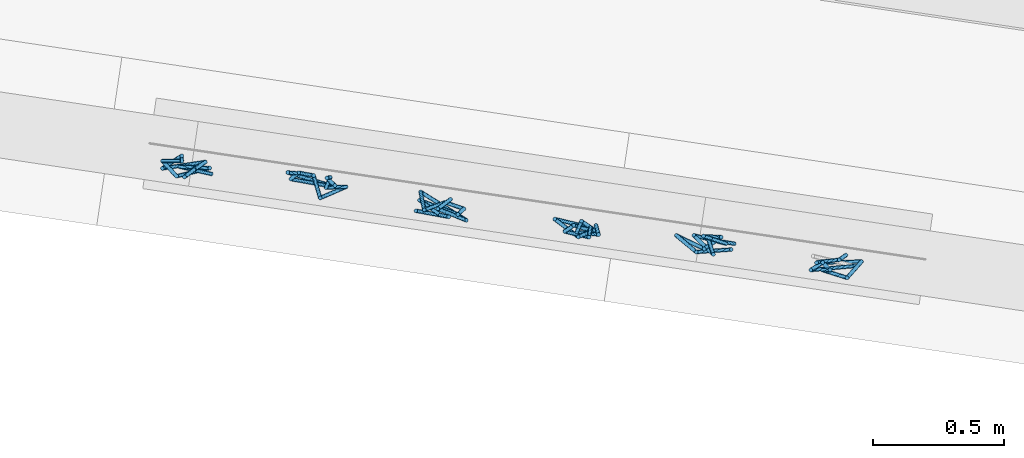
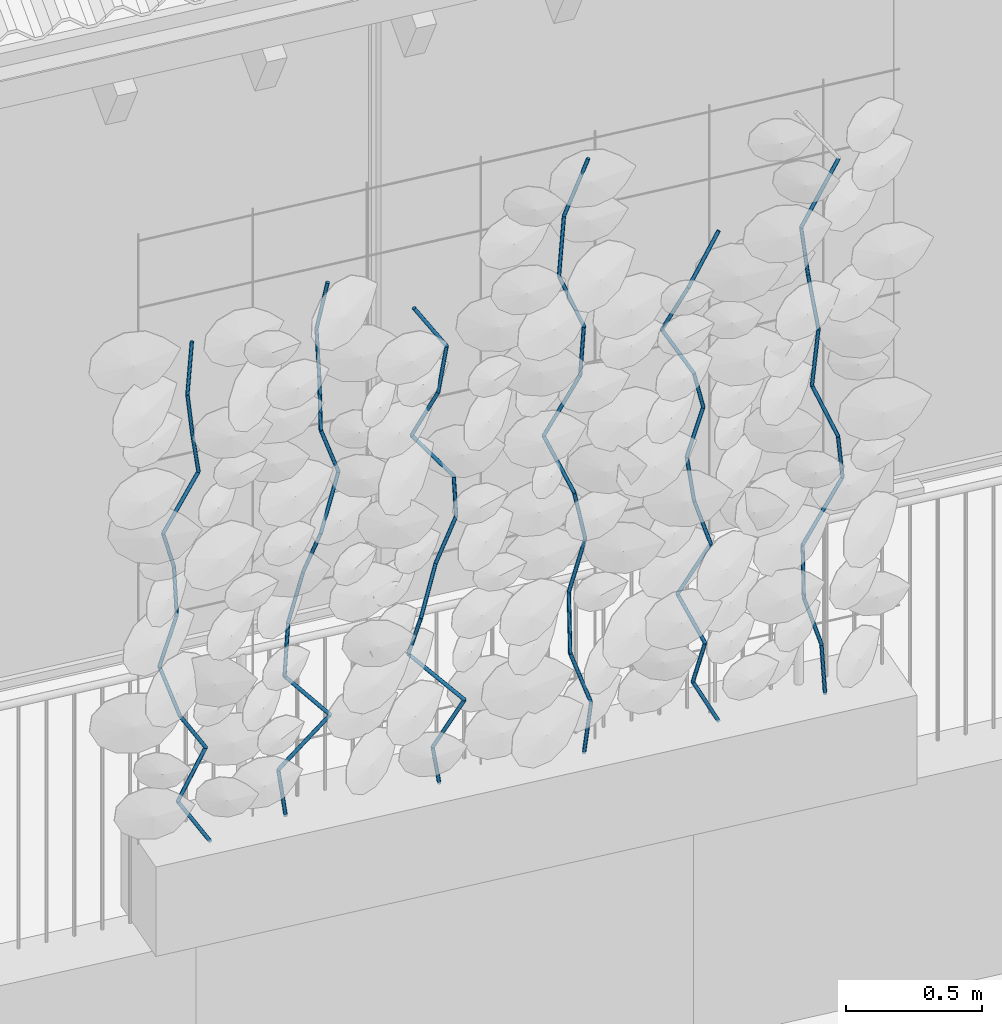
# One storey, part 106 of 128: 65 members, 1 element without a shape of its own.
"""IFC4 building model written with IfcOpenShell, lengths in metres."""

from ifc_helpers import new_model, si_unit, direction, frame, origin_with_axes, place, context, subcontext, project, spatial, circle, extrude, material, material_profile, profile_set, profile_usage, type_object, element, aggregate, save


model = new_model("IFC4")

# Units and contexts
model_context = context("Model", 3, precision=1e-05, world=origin_with_axes(), true_north=direction((0.0, 1.0)))
body_context = subcontext(model_context, "Body", "Model", "MODEL_VIEW")
ifc_project = project(units=[si_unit("VOLUMEUNIT", "CUBIC_METRE"), si_unit("LENGTHUNIT", "METRE"), si_unit("AREAUNIT", "SQUARE_METRE")], contexts=[model_context])

# Site, building, storey
site_placement = place(None, origin_with_axes())
site = spatial("IfcSite", under=ifc_project, at=site_placement, Name="Lares · Rua das Mercês · artigo 4771")
building_placement = place(site_placement, frame((15.0, 9.7, 13.9), z_axis=(0.0, 0.0, 1.0), x_axis=(0.989015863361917, -0.147809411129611, 0.0)))
building = spatial("IfcBuilding", under=site, at=building_placement, Name="Casa Sobreposta")
storey_placement = place(building_placement, origin_with_axes())
storey = spatial("IfcBuildingStorey", under=building, at=storey_placement, Name="00 · Habitação e estacionamento", Elevation=13.9)

# Assembly, members
assembly_placement = place(storey_placement, origin_with_axes())
assembly = element("IfcElementAssembly", 1, at=assembly_placement, inside=storey, Name="Fachada sul e pátio · estrutura e trepadeiras", ObjectType="LIVING_SHADE_TRELLIS", PredefinedType="USERDEFINED")
ifc_material = material(Name="Ramos de trepadeiras", Category="wood")
ifc_material_profile = material_profile(ifc_material, circle(Radius=0.0075))
ifc_profile_set = profile_set([ifc_material_profile], Name="D0.015")
ifc_profile_usage_1 = profile_usage(ifc_profile_set)
member_type = type_object("IfcMemberType", Name="D0.015 / vine_wood", PredefinedType="NOTDEFINED", material=ifc_profile_set)
member_1_placement = place(assembly_placement, frame((4.75122920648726, -1.69070800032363, 0.35), z_axis=(-0.518684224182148, 0.0390930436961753, 0.85407166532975), x_axis=(0.0751564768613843, 0.997171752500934, 0.0)))
member_1 = element("IfcMember", 2, at=member_1_placement, type_object=member_type, material=ifc_profile_usage_1, Name="Trepadeiras · ramo", context=body_context, shape_type="SweptSolid", body=[
    extrude(circle(Radius=0.0075), origin_with_axes(), (0.0, 0.0, 1.0), 0.239359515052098),
])
ifc_profile_usage_2 = profile_usage(ifc_profile_set)
member_2_placement = place(assembly_placement, frame((4.62707720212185, -1.68135070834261, 0.554430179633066), z_axis=(0.489334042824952, 0.051012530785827, 0.870603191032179), x_axis=(0.103686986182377, -0.994609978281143, 0.0)))
member_2 = element("IfcMember", 3, at=member_2_placement, type_object=member_type, material=ifc_profile_usage_2, Name="Trepadeiras · ramo", context=body_context, shape_type="SweptSolid", body=[
    extrude(circle(Radius=0.0075), origin_with_axes(), (0.0, 0.0, 1.0), 0.2348144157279),
])
ifc_profile_usage_3 = profile_usage(ifc_profile_set)
member_3_placement = place(assembly_placement, frame((4.74197988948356, -1.66937223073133, 0.758860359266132), z_axis=(-0.498709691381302, -0.204181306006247, 0.842376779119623), x_axis=(-0.378893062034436, 0.925440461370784, 0.0)))
member_3 = element("IfcMember", 4, at=member_3_placement, type_object=member_type, material=ifc_profile_usage_3, Name="Trepadeiras · ramo", context=body_context, shape_type="SweptSolid", body=[
    extrude(circle(Radius=0.0075), origin_with_axes(), (0.0, 0.0, 1.0), 0.242682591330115),
])
ifc_profile_usage_4 = profile_usage(ifc_profile_set)
member_4_placement = place(assembly_placement, frame((4.6209517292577, -1.71892347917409, 0.963290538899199), z_axis=(-0.281420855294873, 0.2249680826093, 0.932840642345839), x_axis=(0.624409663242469, 0.78109703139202, 0.0)))
member_4 = element("IfcMember", 5, at=member_4_placement, type_object=member_type, material=ifc_profile_usage_4, Name="Trepadeiras · ramo", context=body_context, shape_type="SweptSolid", body=[
    extrude(circle(Radius=0.0075), origin_with_axes(), (0.0, 0.0, 1.0), 0.219148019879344),
])
ifc_profile_usage_5 = profile_usage(ifc_profile_set)
member_5_placement = place(assembly_placement, frame((4.55927890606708, -1.66962216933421, 1.16772071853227), z_axis=(0.334839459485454, 0.0497730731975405, 0.940959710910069), x_axis=(0.147032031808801, -0.989131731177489, 0.0)))
member_5 = element("IfcMember", 6, at=member_5_placement, type_object=member_type, material=ifc_profile_usage_5, Name="Trepadeiras · ramo", context=body_context, shape_type="SweptSolid", body=[
    extrude(circle(Radius=0.0075), origin_with_axes(), (0.0, 0.0, 1.0), 0.217257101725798),
])
ifc_profile_usage_6 = profile_usage(ifc_profile_set)
member_6_placement = place(assembly_placement, frame((4.63202515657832, -1.65880861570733, 1.37215089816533), z_axis=(-0.0155370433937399, 0.0965979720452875, 0.995202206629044), x_axis=(0.987310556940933, 0.158801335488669, -2.20565392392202e-18)))
member_6 = element("IfcMember", 7, at=member_6_placement, type_object=member_type, material=ifc_profile_usage_6, Name="Trepadeiras · ramo", context=body_context, shape_type="SweptSolid", body=[
    extrude(circle(Radius=0.0075), origin_with_axes(), (0.0, 0.0, 1.0), 0.205415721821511),
])
ifc_profile_usage_7 = profile_usage(ifc_profile_set)
member_7_placement = place(assembly_placement, frame((4.62883360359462, -1.63896587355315, 1.5765810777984), z_axis=(-0.296042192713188, -0.262748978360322, 0.918325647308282), x_axis=(-0.663799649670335, 0.747910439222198, 0.0)))
member_7 = element("IfcMember", 8, at=member_7_placement, type_object=member_type, material=ifc_profile_usage_7, Name="Trepadeiras · ramo", context=body_context, shape_type="SweptSolid", body=[
    extrude(circle(Radius=0.0075), origin_with_axes(), (0.0, 0.0, 1.0), 0.222611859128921),
])
ifc_profile_usage_8 = profile_usage(ifc_profile_set)
member_8_placement = place(assembly_placement, frame((4.56293110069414, -1.69745691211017, 1.78101125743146), z_axis=(0.602593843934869, 0.184528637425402, 0.776421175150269), x_axis=(0.29280296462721, -0.956172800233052, 0.0)))
member_8 = element("IfcMember", 9, at=member_8_placement, type_object=member_type, material=ifc_profile_usage_8, Name="Trepadeiras · ramo", context=body_context, shape_type="SweptSolid", body=[
    extrude(circle(Radius=0.0075), origin_with_axes(), (0.0, 0.0, 1.0), 0.263298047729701),
])
ifc_profile_usage_9 = profile_usage(ifc_profile_set)
member_9_placement = place(assembly_placement, frame((4.72159288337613, -1.64887088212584, 1.98544143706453), z_axis=(-0.183474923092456, -0.172511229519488, 0.967768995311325), x_axis=(-0.685004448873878, 0.728538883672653, 0.0)))
member_9 = element("IfcMember", 10, at=member_9_placement, type_object=member_type, material=ifc_profile_usage_9, Name="Trepadeiras · ramo", context=body_context, shape_type="SweptSolid", body=[
    extrude(circle(Radius=0.0075), origin_with_axes(), (0.0, 0.0, 1.0), 0.211238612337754),
])
ifc_profile_usage_10 = profile_usage(ifc_profile_set)
member_10_placement = place(assembly_placement, frame((4.6828358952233, -1.68531191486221, 2.1898716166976), z_axis=(-0.151703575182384, -0.152460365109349, 0.976597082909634), x_axis=(-0.708863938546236, 0.705345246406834, 0.0)))
member_10 = element("IfcMember", 11, at=member_10_placement, type_object=member_type, material=ifc_profile_usage_10, Name="Trepadeiras · ramo", context=body_context, shape_type="SweptSolid", body=[
    extrude(circle(Radius=0.0075), origin_with_axes(), (0.0, 0.0, 1.0), 0.209329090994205),
])
ifc_profile_usage_11 = profile_usage(ifc_profile_set)
member_11_placement = place(assembly_placement, frame((4.6510799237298, -1.7172263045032, 2.39430179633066), z_axis=(0.152772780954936, 0.174728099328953, 0.972692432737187), x_axis=(0.75282070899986, -0.658225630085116, 0.0)))
member_11 = element("IfcMember", 12, at=member_11_placement, type_object=member_type, material=ifc_profile_usage_11, Name="Trepadeiras · ramo", context=body_context, shape_type="SweptSolid", body=[
    extrude(circle(Radius=0.0075), origin_with_axes(), (0.0, 0.0, 1.0), 0.21016939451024),
])
ifc_profile_usage_12 = profile_usage(ifc_profile_set)
member_12_placement = place(assembly_placement, frame((5.06868094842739, -1.64046507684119, 0.35), z_axis=(-0.137952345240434, -0.00819560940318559, 0.990404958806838), x_axis=(-0.0593044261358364, 0.998239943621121, 0.0)))
member_12 = element("IfcMember", 13, at=member_12_placement, type_object=member_type, material=ifc_profile_usage_12, Name="Trepadeiras · ramo", context=body_context, shape_type="SweptSolid", body=[
    extrude(circle(Radius=0.0075), origin_with_axes(), (0.0, 0.0, 1.0), 0.217030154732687),
])
ifc_profile_usage_13 = profile_usage(ifc_profile_set)
member_13_placement = place(assembly_placement, frame((5.03874112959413, -1.64224377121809, 0.564947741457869), z_axis=(0.665448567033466, -0.0975228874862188, 0.740045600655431), x_axis=(-0.145003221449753, -0.989431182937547, 0.0)))
member_13 = element("IfcMember", 14, at=member_13_placement, type_object=member_type, material=ifc_profile_usage_13, Name="Trepadeiras · ramo", context=body_context, shape_type="SweptSolid", body=[
    extrude(circle(Radius=0.0075), origin_with_axes(), (0.0, 0.0, 1.0), 0.290452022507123),
])
ifc_profile_usage_14 = profile_usage(ifc_profile_set)
member_14_placement = place(assembly_placement, frame((5.23202201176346, -1.67056949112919, 0.779895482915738), z_axis=(-0.636980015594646, 0.019434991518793, 0.770635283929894), x_axis=(0.030496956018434, 0.999534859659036, 0.0)))
member_14 = element("IfcMember", 15, at=member_14_placement, type_object=member_type, material=ifc_profile_usage_14, Name="Trepadeiras · ramo", context=body_context, shape_type="SweptSolid", body=[
    extrude(circle(Radius=0.0075), origin_with_axes(), (0.0, 0.0, 1.0), 0.278922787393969),
])
ifc_profile_usage_15 = profile_usage(ifc_profile_set)
member_15_placement = place(assembly_placement, frame((5.05435377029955, -1.66514862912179, 0.994843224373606), z_axis=(0.115761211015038, 0.129508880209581, 0.984797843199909), x_axis=(0.745570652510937, -0.66642659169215, 0.0)))
member_15 = element("IfcMember", 16, at=member_15_placement, type_object=member_type, material=ifc_profile_usage_15, Name="Trepadeiras · ramo", context=body_context, shape_type="SweptSolid", body=[
    extrude(circle(Radius=0.0075), origin_with_axes(), (0.0, 0.0, 1.0), 0.218265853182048),
])
ifc_profile_usage_16 = profile_usage(ifc_profile_set)
member_16_placement = place(assembly_placement, frame((5.07962048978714, -1.6368812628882, 1.20979096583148), z_axis=(0.263759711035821, -0.0100204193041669, 0.964536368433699), x_axis=(-0.037963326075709, -0.9992791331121, 1.58477361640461e-18)))
member_16 = element("IfcMember", 17, at=member_16_placement, type_object=member_type, material=ifc_profile_usage_16, Name="Trepadeiras · ramo", context=body_context, shape_type="SweptSolid", body=[
    extrude(circle(Radius=0.0075), origin_with_axes(), (0.0, 0.0, 1.0), 0.22285084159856),
])
ifc_profile_usage_17 = profile_usage(ifc_profile_set)
member_17_placement = place(assembly_placement, frame((5.13839956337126, -1.6391143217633, 1.42473870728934), z_axis=(0.161438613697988, -0.347744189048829, 0.923586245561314), x_axis=(-0.90702296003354, -0.42108116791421, 0.0)))
member_17 = element("IfcMember", 18, at=member_17_placement, type_object=member_type, material=ifc_profile_usage_17, Name="Trepadeiras · ramo", context=body_context, shape_type="SweptSolid", body=[
    extrude(circle(Radius=0.0075), origin_with_axes(), (0.0, 0.0, 1.0), 0.232731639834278),
])
ifc_profile_usage_18 = profile_usage(ifc_profile_set)
member_18_placement = place(assembly_placement, frame((5.17597143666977, -1.72004539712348, 1.63968644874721), z_axis=(0.381320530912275, 0.236593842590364, 0.893654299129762), x_axis=(0.527221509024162, -0.849727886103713, 0.0)))
member_18 = element("IfcMember", 19, at=member_18_placement, type_object=member_type, material=ifc_profile_usage_18, Name="Trepadeiras · ramo", context=body_context, shape_type="SweptSolid", body=[
    extrude(circle(Radius=0.0075), origin_with_axes(), (0.0, 0.0, 1.0), 0.240526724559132),
])
ifc_profile_usage_19 = profile_usage(ifc_profile_set)
member_19_placement = place(assembly_placement, frame((5.26768921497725, -1.66313825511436, 1.85463419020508), z_axis=(-0.330503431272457, -0.0630043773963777, 0.941699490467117), x_axis=(-0.187259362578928, 0.98231050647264, 0.0)))
member_19 = element("IfcMember", 20, at=member_19_placement, type_object=member_type, material=ifc_profile_usage_19, Name="Trepadeiras · ramo", context=body_context, shape_type="SweptSolid", body=[
    extrude(circle(Radius=0.0075), origin_with_axes(), (0.0, 0.0, 1.0), 0.2282551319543),
])
ifc_profile_usage_20 = profile_usage(ifc_profile_set)
member_20_placement = place(assembly_placement, frame((5.1922501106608, -1.67751932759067, 2.06958193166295), z_axis=(0.046925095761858, 0.189441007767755, 0.980770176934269), x_axis=(0.970664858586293, -0.2404365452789, 0.0)))
member_20 = element("IfcMember", 21, at=member_20_placement, type_object=member_type, material=ifc_profile_usage_20, Name="Trepadeiras · ramo", context=body_context, shape_type="SweptSolid", body=[
    extrude(circle(Radius=0.0075), origin_with_axes(), (0.0, 0.0, 1.0), 0.219162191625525),
])
ifc_profile_usage_21 = profile_usage(ifc_profile_set)
member_21_placement = place(assembly_placement, frame((5.20253431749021, -1.63600102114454, 2.28452967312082), z_axis=(-0.0592955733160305, -0.0221108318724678, 0.997995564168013), x_axis=(-0.349391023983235, 0.936977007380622, 0.0)))
member_21 = element("IfcMember", 22, at=member_21_placement, type_object=member_type, material=ifc_profile_usage_21, Name="Trepadeiras · ramo", context=body_context, shape_type="SweptSolid", body=[
    extrude(circle(Radius=0.0075), origin_with_axes(), (0.0, 0.0, 1.0), 0.215379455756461),
])
ifc_profile_usage_22 = profile_usage(ifc_profile_set)
member_22_placement = place(assembly_placement, frame((5.18976326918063, -1.64076324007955, 2.49947741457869), z_axis=(0.15933076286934, -0.109261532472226, 0.981160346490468), x_axis=(-0.565550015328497, -0.824713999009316, 0.0)))
member_22 = element("IfcMember", 23, at=member_22_placement, type_object=member_type, material=ifc_profile_usage_22, Name="Trepadeiras · ramo", context=body_context, shape_type="SweptSolid", body=[
    extrude(circle(Radius=0.0075), origin_with_axes(), (0.0, 0.0, 1.0), 0.219075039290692),
])
ifc_profile_usage_23 = profile_usage(ifc_profile_set)
member_23_placement = place(assembly_placement, frame((5.66950418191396, -1.65129466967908, 0.35), z_axis=(-0.205530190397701, -0.206844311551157, 0.956542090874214), x_axis=(-0.709356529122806, 0.704849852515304, 0.0)))
member_23 = element("IfcMember", 24, at=member_23_placement, type_object=member_type, material=ifc_profile_usage_23, Name="Trepadeiras · ramo", context=body_context, shape_type="SweptSolid", body=[
    extrude(circle(Radius=0.0075), origin_with_axes(), (0.0, 0.0, 1.0), 0.209011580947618),
])
ifc_profile_usage_24 = profile_usage(ifc_profile_set)
member_24_placement = place(assembly_placement, frame((5.62654599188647, -1.69452752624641, 0.54992837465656), z_axis=(0.494911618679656, -0.11866439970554, 0.860802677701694), x_axis=(-0.233160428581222, -0.972438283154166, 0.0)))
member_24 = element("IfcMember", 25, at=member_24_placement, type_object=member_type, material=ifc_profile_usage_24, Name="Trepadeiras · ramo", context=body_context, shape_type="SweptSolid", body=[
    extrude(circle(Radius=0.0075), origin_with_axes(), (0.0, 0.0, 1.0), 0.232258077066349),
])
ifc_profile_usage_25 = profile_usage(ifc_profile_set)
member_25_placement = place(assembly_placement, frame((5.7414932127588, -1.72208829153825, 0.749856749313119), z_axis=(-0.659269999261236, 0.284205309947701, 0.696125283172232), x_axis=(0.395873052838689, 0.91830524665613, 0.0)))
member_25 = element("IfcMember", 26, at=member_25_placement, type_object=member_type, material=ifc_profile_usage_25, Name="Trepadeiras · ramo", context=body_context, shape_type="SweptSolid", body=[
    extrude(circle(Radius=0.0075), origin_with_axes(), (0.0, 0.0, 1.0), 0.287201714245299),
])
ifc_profile_usage_26 = profile_usage(ifc_profile_set)
member_26_placement = place(assembly_placement, frame((5.55214973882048, -1.64046403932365, 0.949785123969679), z_axis=(0.112788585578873, -0.311886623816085, 0.943401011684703), x_axis=(-0.940396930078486, -0.340078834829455, -1.97379042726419e-17)))
member_26 = element("IfcMember", 27, at=member_26_placement, type_object=member_type, material=ifc_profile_usage_26, Name="Trepadeiras · ramo", context=body_context, shape_type="SweptSolid", body=[
    extrude(circle(Radius=0.0075), origin_with_axes(), (0.0, 0.0, 1.0), 0.211923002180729),
])
ifc_profile_usage_27 = profile_usage(ifc_profile_set)
member_27_placement = place(assembly_placement, frame((5.57605223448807, -1.70655998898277, 1.14971349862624), z_axis=(0.341737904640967, 0.186741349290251, 0.921055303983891), x_axis=(0.479522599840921, -0.877529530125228, 0.0)))
member_27 = element("IfcMember", 28, at=member_27_placement, type_object=member_type, material=ifc_profile_usage_27, Name="Trepadeiras · ramo", context=body_context, shape_type="SweptSolid", body=[
    extrude(circle(Radius=0.0075), origin_with_axes(), (0.0, 0.0, 1.0), 0.217064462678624),
])
ifc_profile_usage_28 = profile_usage(ifc_profile_set)
member_28_placement = place(assembly_placement, frame((5.65023138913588, -1.6660250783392, 1.3496418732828), z_axis=(0.350783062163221, -0.0651607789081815, 0.934186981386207), x_axis=(-0.182633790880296, -0.983181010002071, 0.0)))
member_28 = element("IfcMember", 29, at=member_28_placement, type_object=member_type, material=ifc_profile_usage_28, Name="Trepadeiras · ramo", context=body_context, shape_type="SweptSolid", body=[
    extrude(circle(Radius=0.0075), origin_with_axes(), (0.0, 0.0, 1.0), 0.214013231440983),
])
ifc_profile_usage_29 = profile_usage(ifc_profile_set)
member_29_placement = place(assembly_placement, frame((5.72530360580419, -1.67997034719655, 1.54957024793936), z_axis=(-0.0969763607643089, -0.121686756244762, 0.987819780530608), x_axis=(-0.782036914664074, 0.623232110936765, 0.0)))
member_29 = element("IfcMember", 30, at=member_29_placement, type_object=member_type, material=ifc_profile_usage_29, Name="Trepadeiras · ramo", context=body_context, shape_type="SweptSolid", body=[
    extrude(circle(Radius=0.0075), origin_with_axes(), (0.0, 0.0, 1.0), 0.202393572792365),
])
ifc_profile_usage_30 = profile_usage(ifc_profile_set)
member_30_placement = place(assembly_placement, frame((5.7056762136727, -1.70459896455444, 1.74949862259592), z_axis=(-0.603457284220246, 0.128578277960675, 0.786960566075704), x_axis=(0.208391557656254, 0.978045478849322, 0.0)))
member_30 = element("IfcMember", 31, at=member_30_placement, type_object=member_type, material=ifc_profile_usage_30, Name="Trepadeiras · ramo", context=body_context, shape_type="SweptSolid", body=[
    extrude(circle(Radius=0.0075), origin_with_axes(), (0.0, 0.0, 1.0), 0.254051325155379),
])
ifc_profile_usage_31 = profile_usage(ifc_profile_set)
member_31_placement = place(assembly_placement, frame((5.55236709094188, -1.67193348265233, 1.94942699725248), z_axis=(0.393051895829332, -0.199468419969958, 0.897620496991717), x_axis=(-0.452546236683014, -0.89174093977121, 0.0)))
member_31 = element("IfcMember", 32, at=member_31_placement, type_object=member_type, material=ifc_profile_usage_31, Name="Trepadeiras · ramo", context=body_context, shape_type="SweptSolid", body=[
    extrude(circle(Radius=0.0075), origin_with_axes(), (0.0, 0.0, 1.0), 0.22273151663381),
])
ifc_profile_usage_32 = profile_usage(ifc_profile_set)
member_32_placement = place(assembly_placement, frame((5.63991213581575, -1.71636138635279, 2.14935537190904), z_axis=(0.159426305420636, -0.0119359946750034, 0.987137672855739), x_axis=(-0.0746594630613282, -0.997209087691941, 0.0)))
member_32 = element("IfcMember", 33, at=member_32_placement, type_object=member_type, material=ifc_profile_usage_32, Name="Trepadeiras · ramo", context=body_context, shape_type="SweptSolid", body=[
    extrude(circle(Radius=0.0075), origin_with_axes(), (0.0, 0.0, 1.0), 0.202533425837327),
])
ifc_profile_usage_33 = profile_usage(ifc_profile_set)
member_33_placement = place(assembly_placement, frame((5.67220129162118, -1.7187788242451, 2.3492837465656), z_axis=(-0.537931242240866, 0.0189032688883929, 0.842776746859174), x_axis=(0.0351190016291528, 0.999383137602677, 0.0)))
member_33 = element("IfcMember", 34, at=member_33_placement, type_object=member_type, material=ifc_profile_usage_33, Name="Trepadeiras · ramo", context=body_context, shape_type="SweptSolid", body=[
    extrude(circle(Radius=0.0075), origin_with_axes(), (0.0, 0.0, 1.0), 0.237225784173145),
])
ifc_profile_usage_34 = profile_usage(ifc_profile_set)
member_34_placement = place(assembly_placement, frame((6.23384789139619, -1.66762222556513, 0.35), z_axis=(0.0596742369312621, -0.136129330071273, 0.988892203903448), x_axis=(-0.915866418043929, -0.401483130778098, 0.0)))
member_34 = element("IfcMember", 35, at=member_34_placement, type_object=member_type, material=ifc_profile_usage_34, Name="Trepadeiras · ramo", context=body_context, shape_type="SweptSolid", body=[
    extrude(circle(Radius=0.0075), origin_with_axes(), (0.0, 0.0, 1.0), 0.246138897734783),
])
ifc_profile_usage_35 = profile_usage(ifc_profile_set)
member_35_placement = place(assembly_placement, frame((6.24853604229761, -1.70112894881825, 0.593404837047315), z_axis=(-0.322780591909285, -0.00849818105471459, 0.946435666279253), x_axis=(-0.0263189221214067, 0.999653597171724, 0.0)))
member_35 = element("IfcMember", 36, at=member_35_placement, type_object=member_type, material=ifc_profile_usage_35, Name="Trepadeiras · ramo", context=body_context, shape_type="SweptSolid", body=[
    extrude(circle(Radius=0.0075), origin_with_axes(), (0.0, 0.0, 1.0), 0.257180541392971),
])
ifc_profile_usage_36 = profile_usage(ifc_profile_set)
member_36_placement = place(assembly_placement, frame((6.16552315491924, -1.70331451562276, 0.836809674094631), z_axis=(0.0452625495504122, 0.173128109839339, 0.983858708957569), x_axis=(0.967482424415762, -0.252938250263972, 0.0)))
member_36 = element("IfcMember", 37, at=member_36_placement, type_object=member_type, material=ifc_profile_usage_36, Name="Trepadeiras · ramo", context=body_context, shape_type="SweptSolid", body=[
    extrude(circle(Radius=0.0075), origin_with_axes(), (0.0, 0.0, 1.0), 0.247398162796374),
])
ifc_profile_usage_37 = profile_usage(ifc_profile_set)
member_37_placement = place(assembly_placement, frame((6.17672102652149, -1.6604829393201, 1.08021451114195), z_axis=(0.217194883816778, -0.103894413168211, 0.970583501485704), x_axis=(-0.431518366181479, -0.90210415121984, 0.0)))
member_37 = element("IfcMember", 38, at=member_37_placement, type_object=member_type, material=ifc_profile_usage_37, Name="Trepadeiras · ramo", context=body_context, shape_type="SweptSolid", body=[
    extrude(circle(Radius=0.0075), origin_with_axes(), (0.0, 0.0, 1.0), 0.250781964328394),
])
ifc_profile_usage_38 = profile_usage(ifc_profile_set)
member_38_placement = place(assembly_placement, frame((6.23118958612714, -1.68653778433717, 1.32361934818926), z_axis=(-0.227746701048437, -0.137682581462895, 0.963937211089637), x_axis=(-0.517351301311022, 0.855773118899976, 0.0)))
member_38 = element("IfcMember", 39, at=member_38_placement, type_object=member_type, material=ifc_profile_usage_38, Name="Trepadeiras · ramo", context=body_context, shape_type="SweptSolid", body=[
    extrude(circle(Radius=0.0075), origin_with_axes(), (0.0, 0.0, 1.0), 0.252511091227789),
])
ifc_profile_usage_39 = profile_usage(ifc_profile_set)
member_39_placement = place(assembly_placement, frame((6.17368101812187, -1.72130416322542, 1.56702418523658), z_axis=(-0.369595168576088, 0.20129408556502, 0.907127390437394), x_axis=(0.478296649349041, 0.878198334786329, 0.0)))
member_39 = element("IfcMember", 40, at=member_39_placement, type_object=member_type, material=ifc_profile_usage_39, Name="Trepadeiras · ramo", context=body_context, shape_type="SweptSolid", body=[
    extrude(circle(Radius=0.0075), origin_with_axes(), (0.0, 0.0, 1.0), 0.268324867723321),
])
ifc_profile_usage_40 = profile_usage(ifc_profile_set)
member_40_placement = place(assembly_placement, frame((6.07450944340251, -1.6672919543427, 1.81042902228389), z_axis=(0.49705681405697, -0.0433913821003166, 0.866632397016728), x_axis=(-0.0869658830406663, -0.996211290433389, 0.0)))
member_40 = element("IfcMember", 41, at=member_40_placement, type_object=member_type, material=ifc_profile_usage_40, Name="Trepadeiras · ramo", context=body_context, shape_type="SweptSolid", body=[
    extrude(circle(Radius=0.0075), origin_with_axes(), (0.0, 0.0, 1.0), 0.280862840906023),
])
ifc_profile_usage_41 = profile_usage(ifc_profile_set)
member_41_placement = place(assembly_placement, frame((6.21411423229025, -1.67947898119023, 2.05383385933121), z_axis=(-0.000663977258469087, -0.150236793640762, 0.988649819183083), x_axis=(-0.999990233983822, 0.0044194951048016, 0.0)))
member_41 = element("IfcMember", 42, at=member_41_placement, type_object=member_type, material=ifc_profile_usage_41, Name="Trepadeiras · ramo", context=body_context, shape_type="SweptSolid", body=[
    extrude(circle(Radius=0.0075), origin_with_axes(), (0.0, 0.0, 1.0), 0.246199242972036),
])
ifc_profile_usage_42 = profile_usage(ifc_profile_set)
member_42_placement = place(assembly_placement, frame((6.21395076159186, -1.71646716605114, 2.29723869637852), z_axis=(-0.363204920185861, 0.0303616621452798, 0.931214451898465), x_axis=(0.0833032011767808, 0.996524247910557, 0.0)))
member_42 = element("IfcMember", 43, at=member_42_placement, type_object=member_type, material=ifc_profile_usage_42, Name="Trepadeiras · ramo", context=body_context, shape_type="SweptSolid", body=[
    extrude(circle(Radius=0.0075), origin_with_axes(), (0.0, 0.0, 1.0), 0.261384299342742),
])
ifc_profile_usage_43 = profile_usage(ifc_profile_set)
member_43_placement = place(assembly_placement, frame((6.11901469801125, -1.70853110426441, 2.54064353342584), z_axis=(0.124656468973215, 0.11394797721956, 0.985635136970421), x_axis=(0.674692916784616, -0.738098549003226, 0.0)))
member_43 = element("IfcMember", 44, at=member_43_placement, type_object=member_type, material=ifc_profile_usage_43, Name="Trepadeiras · ramo", context=body_context, shape_type="SweptSolid", body=[
    extrude(circle(Radius=0.0075), origin_with_axes(), (0.0, 0.0, 1.0), 0.246952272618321),
])
ifc_profile_usage_44 = profile_usage(ifc_profile_set)
member_44_placement = place(assembly_placement, frame((6.14979889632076, -1.68039139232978, 2.78404837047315), z_axis=(0.348550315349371, -0.0526069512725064, 0.935812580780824), x_axis=(-0.149240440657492, -0.988800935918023, 0.0)))
member_44 = element("IfcMember", 45, at=member_44_placement, type_object=member_type, material=ifc_profile_usage_44, Name="Trepadeiras · ramo", context=body_context, shape_type="SweptSolid", body=[
    extrude(circle(Radius=0.0075), origin_with_axes(), (0.0, 0.0, 1.0), 0.26009998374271),
])
ifc_profile_usage_45 = profile_usage(ifc_profile_set)
member_45_placement = place(assembly_placement, frame((6.76755332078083, -1.65888668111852, 0.35), z_axis=(-0.448501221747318, 0.00414639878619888, 0.893772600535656), x_axis=(0.00924461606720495, 0.999957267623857, 0.0)))
member_45 = element("IfcMember", 46, at=member_45_placement, type_object=member_type, material=ifc_profile_usage_45, Name="Trepadeiras · ramo", context=body_context, shape_type="SweptSolid", body=[
    extrude(circle(Radius=0.0075), origin_with_axes(), (0.0, 0.0, 1.0), 0.225170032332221),
])
ifc_profile_usage_46 = profile_usage(ifc_profile_set)
member_46_placement = place(assembly_placement, frame((6.66656428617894, -1.65795303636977, 0.551250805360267), z_axis=(0.130163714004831, -0.25384617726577, 0.958446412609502), x_axis=(-0.889837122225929, -0.456278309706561, 0.0)))
member_46 = element("IfcMember", 47, at=member_46_placement, type_object=member_type, material=ifc_profile_usage_46, Name="Trepadeiras · ramo", context=body_context, shape_type="SweptSolid", body=[
    extrude(circle(Radius=0.0075), origin_with_axes(), (0.0, 0.0, 1.0), 0.209976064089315),
])
ifc_profile_usage_47 = profile_usage(ifc_profile_set)
member_47_placement = place(assembly_placement, frame((6.69389555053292, -1.71125465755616, 0.752501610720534), z_axis=(-0.374057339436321, 0.269779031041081, 0.887299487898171), x_axis=(0.58495820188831, 0.811063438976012, 0.0)))
member_47 = element("IfcMember", 48, at=member_47_placement, type_object=member_type, material=ifc_profile_usage_47, Name="Trepadeiras · ramo", context=body_context, shape_type="SweptSolid", body=[
    extrude(circle(Radius=0.0075), origin_with_axes(), (0.0, 0.0, 1.0), 0.226812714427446),
])
ifc_profile_usage_48 = profile_usage(ifc_profile_set)
member_48_placement = place(assembly_placement, frame((6.60905459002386, -1.65006534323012, 0.9537524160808), z_axis=(0.53027502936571, -0.0556057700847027, 0.846000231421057), x_axis=(-0.104290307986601, -0.994546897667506, 0.0)))
member_48 = element("IfcMember", 49, at=member_48_placement, type_object=member_type, material=ifc_profile_usage_48, Name="Trepadeiras · ramo", context=body_context, shape_type="SweptSolid", body=[
    extrude(circle(Radius=0.0075), origin_with_axes(), (0.0, 0.0, 1.0), 0.237885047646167),
])
ifc_profile_usage_49 = profile_usage(ifc_profile_set)
member_49_placement = place(assembly_placement, frame((6.7351990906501, -1.66329312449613, 1.15500322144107), z_axis=(-0.292391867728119, 0.0505748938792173, 0.954960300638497), x_axis=(0.170438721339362, 0.985368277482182, 0.0)))
member_49 = element("IfcMember", 50, at=member_49_placement, type_object=member_type, material=ifc_profile_usage_49, Name="Trepadeiras · ramo", context=body_context, shape_type="SweptSolid", body=[
    extrude(circle(Radius=0.0075), origin_with_axes(), (0.0, 0.0, 1.0), 0.210742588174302),
])
ifc_profile_usage_50 = profile_usage(ifc_profile_set)
member_50_placement = place(assembly_placement, frame((6.67357967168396, -1.65263484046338, 1.35625402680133), z_axis=(-0.134007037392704, 0.022996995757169, 0.990713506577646), x_axis=(0.169137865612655, 0.985592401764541, 0.0)))
member_50 = element("IfcMember", 51, at=member_50_placement, type_object=member_type, material=ifc_profile_usage_50, Name="Trepadeiras · ramo", context=body_context, shape_type="SweptSolid", body=[
    extrude(circle(Radius=0.0075), origin_with_axes(), (0.0, 0.0, 1.0), 0.203137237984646),
])
ifc_profile_usage_51 = profile_usage(ifc_profile_set)
member_51_placement = place(assembly_placement, frame((6.6463578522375, -1.64796329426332, 1.5575048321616), z_axis=(0.318926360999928, 0.0294451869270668, 0.947321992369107), x_axis=(0.0919349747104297, -0.995765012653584, 0.0)))
member_51 = element("IfcMember", 52, at=member_51_placement, type_object=member_type, material=ifc_profile_usage_51, Name="Trepadeiras · ramo", context=body_context, shape_type="SweptSolid", body=[
    extrude(circle(Radius=0.0075), origin_with_axes(), (0.0, 0.0, 1.0), 0.212441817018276),
])
ifc_profile_usage_52 = profile_usage(ifc_profile_set)
member_52_placement = place(assembly_placement, frame((6.71411114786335, -1.64170790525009, 1.75875563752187), z_axis=(-0.269313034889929, -0.249933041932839, 0.930055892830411), x_axis=(-0.680241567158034, 0.732988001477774, 0.0)))
member_52 = element("IfcMember", 53, at=member_52_placement, type_object=member_type, material=ifc_profile_usage_52, Name="Trepadeiras · ramo", context=body_context, shape_type="SweptSolid", body=[
    extrude(circle(Radius=0.0075), origin_with_axes(), (0.0, 0.0, 1.0), 0.216385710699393),
])
ifc_profile_usage_53 = profile_usage(ifc_profile_set)
member_53_placement = place(assembly_placement, frame((6.65583565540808, -1.69578984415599, 1.96000644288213), z_axis=(-0.482108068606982, 0.151816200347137, 0.862857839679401), x_axis=(0.300360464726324, 0.953825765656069, 0.0)))
member_53 = element("IfcMember", 54, at=member_53_placement, type_object=member_type, material=ifc_profile_usage_53, Name="Trepadeiras · ramo", context=body_context, shape_type="SweptSolid", body=[
    extrude(circle(Radius=0.0075), origin_with_axes(), (0.0, 0.0, 1.0), 0.233237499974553),
])
ifc_profile_usage_54 = profile_usage(ifc_profile_set)
member_54_placement = place(assembly_placement, frame((6.54338997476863, -1.66038061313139, 2.1612572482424), z_axis=(0.378364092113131, -0.229513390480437, 0.89675203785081), x_axis=(-0.518635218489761, -0.854995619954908, 0.0)))
member_54 = element("IfcMember", 55, at=member_54_placement, type_object=member_type, material=ifc_profile_usage_54, Name="Trepadeiras · ramo", context=body_context, shape_type="SweptSolid", body=[
    extrude(circle(Radius=0.0075), origin_with_axes(), (0.0, 0.0, 1.0), 0.224421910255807),
])
ifc_profile_usage_55 = profile_usage(ifc_profile_set)
member_55_placement = place(assembly_placement, frame((6.62830316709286, -1.7118884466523, 2.36250805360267), z_axis=(0.540702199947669, 0.12110116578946, 0.832451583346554), x_axis=(0.218555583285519, -0.975824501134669, 0.0)))
member_55 = element("IfcMember", 56, at=member_55_placement, type_object=member_type, material=ifc_profile_usage_55, Name="Trepadeiras · ramo", context=body_context, shape_type="SweptSolid", body=[
    extrude(circle(Radius=0.0075), origin_with_axes(), (0.0, 0.0, 1.0), 0.241756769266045),
])
ifc_profile_usage_56 = profile_usage(ifc_profile_set)
member_56_placement = place(assembly_placement, frame((7.19524020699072, -1.63921700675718, 0.35), z_axis=(-0.0932618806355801, -0.088362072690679, 0.991712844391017), x_axis=(-0.687780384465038, 0.725918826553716, 0.0)))
member_56 = element("IfcMember", 57, at=member_56_placement, type_object=member_type, material=ifc_profile_usage_56, Name="Trepadeiras · ramo", context=body_context, shape_type="SweptSolid", body=[
    extrude(circle(Radius=0.0075), origin_with_axes(), (0.0, 0.0, 1.0), 0.243011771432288),
])
ifc_profile_usage_57 = profile_usage(ifc_profile_set)
member_57_placement = place(assembly_placement, frame((7.17257647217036, -1.66069003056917, 0.590997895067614), z_axis=(-0.304604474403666, -0.0778674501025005, 0.949290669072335), x_axis=(-0.247670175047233, 0.96884440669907, 0.0)))
member_57 = element("IfcMember", 58, at=member_57_placement, type_object=member_type, material=ifc_profile_usage_57, Name="Trepadeiras · ramo", context=body_context, shape_type="SweptSolid", body=[
    extrude(circle(Radius=0.0075), origin_with_axes(), (0.0, 0.0, 1.0), 0.253871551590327),
])
ifc_profile_usage_58 = profile_usage(ifc_profile_set)
member_58_placement = place(assembly_placement, frame((7.09524606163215, -1.68045836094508, 0.831995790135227), z_axis=(-0.0270554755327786, -0.0167978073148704, 0.999492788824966), x_axis=(0.99963393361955, -0.000454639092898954, 0.0270516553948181)))
member_58 = element("IfcMember", 59, at=member_58_placement, type_object=member_type, material=ifc_profile_usage_58, Name="Trepadeiras · ramo", context=body_context, shape_type="SweptSolid", body=[
    extrude(circle(Radius=0.0075), origin_with_axes(), (0.0, 0.0, 1.0), 0.241120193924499),
])
ifc_profile_usage_59 = profile_usage(ifc_profile_set)
member_59_placement = place(assembly_placement, frame((7.08872244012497, -1.68450865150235, 1.07299368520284), z_axis=(0.57158784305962, 0.101383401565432, 0.8142534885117), x_axis=(0.174645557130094, -0.984631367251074, 0.0)))
member_59 = element("IfcMember", 60, at=member_59_placement, type_object=member_type, material=ifc_profile_usage_59, Name="Trepadeiras · ramo", context=body_context, shape_type="SweptSolid", body=[
    extrude(circle(Radius=0.0075), origin_with_axes(), (0.0, 0.0, 1.0), 0.295974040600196),
])
ifc_profile_usage_60 = profile_usage(ifc_profile_set)
member_60_placement = place(assembly_placement, frame((7.25789760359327, -1.65450179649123, 1.31399158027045), z_axis=(-0.177782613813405, -0.272952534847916, 0.945457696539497), x_axis=(-0.837933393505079, 0.545772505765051, 0.0)))
member_60 = element("IfcMember", 61, at=member_60_placement, type_object=member_type, material=ifc_profile_usage_60, Name="Trepadeiras · ramo", context=body_context, shape_type="SweptSolid", body=[
    extrude(circle(Radius=0.0075), origin_with_axes(), (0.0, 0.0, 1.0), 0.254900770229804),
])
ifc_profile_usage_61 = profile_usage(ifc_profile_set)
member_61_placement = place(assembly_placement, frame((7.21258067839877, -1.72407760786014, 1.55498947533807), z_axis=(-0.371591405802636, 0.0580037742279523, 0.92658264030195), x_axis=(0.154227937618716, 0.988035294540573, 0.0)))
member_61 = element("IfcMember", 62, at=member_61_placement, type_object=member_type, material=ifc_profile_usage_61, Name="Trepadeiras · ramo", context=body_context, shape_type="SweptSolid", body=[
    extrude(circle(Radius=0.0075), origin_with_axes(), (0.0, 0.0, 1.0), 0.260093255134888),
])
ifc_profile_usage_62 = profile_usage(ifc_profile_set)
member_62_placement = place(assembly_placement, frame((7.11593226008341, -1.70899121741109, 1.79598737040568), z_axis=(0.114788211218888, 0.0214232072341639, 0.99315895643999), x_axis=(0.183464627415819, -0.983026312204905, 0.0)))
member_62 = element("IfcMember", 63, at=member_62_placement, type_object=member_type, material=ifc_profile_usage_62, Name="Trepadeiras · ramo", context=body_context, shape_type="SweptSolid", body=[
    extrude(circle(Radius=0.0075), origin_with_axes(), (0.0, 0.0, 1.0), 0.242657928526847),
])
ifc_profile_usage_63 = profile_usage(ifc_profile_set)
member_63_placement = place(assembly_placement, frame((7.14378652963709, -1.70379270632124, 2.0369852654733), z_axis=(-0.13260385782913, 0.0969628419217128, 0.98641493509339), x_axis=(0.590254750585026, 0.807217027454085, 0.0)))
member_63 = element("IfcMember", 64, at=member_63_placement, type_object=member_type, material=ifc_profile_usage_63, Name="Trepadeiras · ramo", context=body_context, shape_type="SweptSolid", body=[
    extrude(circle(Radius=0.0075), origin_with_axes(), (0.0, 0.0, 1.0), 0.244316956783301),
])
ifc_profile_usage_64 = profile_usage(ifc_profile_set)
member_64_placement = place(assembly_placement, frame((7.11138915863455, -1.68010303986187, 2.27798316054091), z_axis=(-0.16396892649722, -0.142554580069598, 0.976110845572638), x_axis=(-0.656107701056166, 0.754667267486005, 1.55866703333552e-17)))
member_64 = element("IfcMember", 65, at=member_64_placement, type_object=member_type, material=ifc_profile_usage_64, Name="Trepadeiras · ramo", context=body_context, shape_type="SweptSolid", body=[
    extrude(circle(Radius=0.0075), origin_with_axes(), (0.0, 0.0, 1.0), 0.246896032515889),
])
ifc_profile_usage_65 = profile_usage(ifc_profile_set)
member_65_placement = place(assembly_placement, frame((7.0709058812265, -1.71529920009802, 2.51898105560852), z_axis=(0.556964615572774, 0.136439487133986, 0.819252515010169), x_axis=(0.237934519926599, -0.971281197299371, 0.0)))
member_65 = element("IfcMember", 66, at=member_65_placement, type_object=member_type, material=ifc_profile_usage_65, Name="Trepadeiras · ramo", context=body_context, shape_type="SweptSolid", body=[
    extrude(circle(Radius=0.0075), origin_with_axes(), (0.0, 0.0, 1.0), 0.294168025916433),
])
aggregate(assembly, [member_1, member_2, member_3, member_4, member_5, member_6, member_7, member_8, member_9, member_10, member_11, member_12, member_13, member_14, member_15, member_16, member_17, member_18, member_19, member_20, member_21, member_22, member_23, member_24, member_25, member_26, member_27, member_28, member_29, member_30, member_31, member_32, member_33, member_34, member_35, member_36, member_37, member_38, member_39, member_40, member_41, member_42, member_43, member_44, member_45, member_46, member_47, member_48, member_49, member_50, member_51, member_52, member_53, member_54, member_55, member_56, member_57, member_58, member_59, member_60, member_61, member_62, member_63, member_64, member_65])

save(model, "model.ifc")
